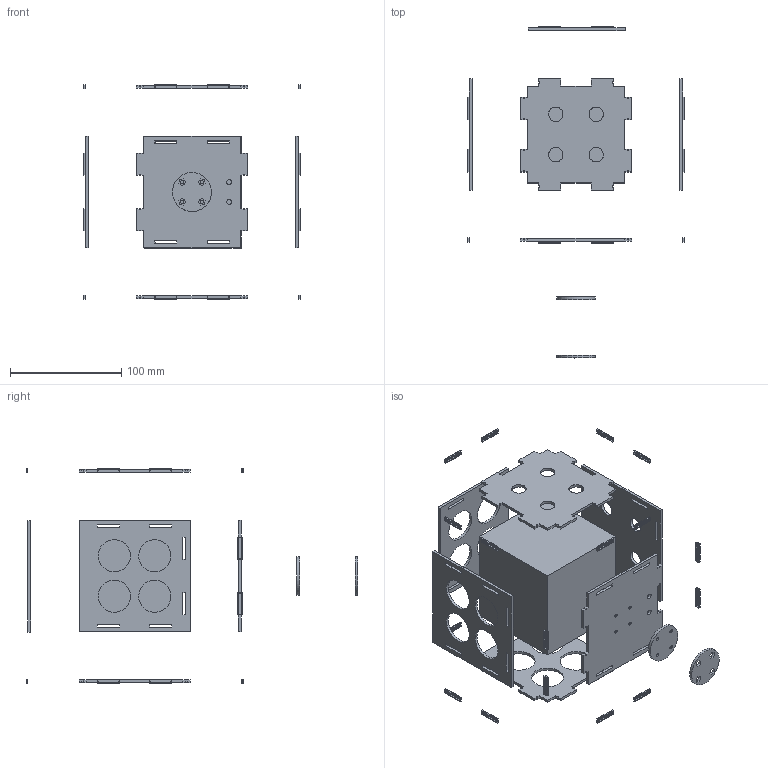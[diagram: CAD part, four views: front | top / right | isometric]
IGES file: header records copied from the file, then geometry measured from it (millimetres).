
Global section: file name: Cubesat_Ensamble_explosionado; native system: Autodesk Inventor 2022; preprocessor: unknown; author: valen; date: 20220531.022937; units: millimetre
Bounding box: 195.2 x 298.56 x 193.41 mm (x, y, z)
Volume: 118057.8 mm3; surface area: 171412.9 mm2
Topology: 28 solids, 28 shells, 624 faces, 1667 edges, 1109 vertices
Faces by surface type: bspline 624
